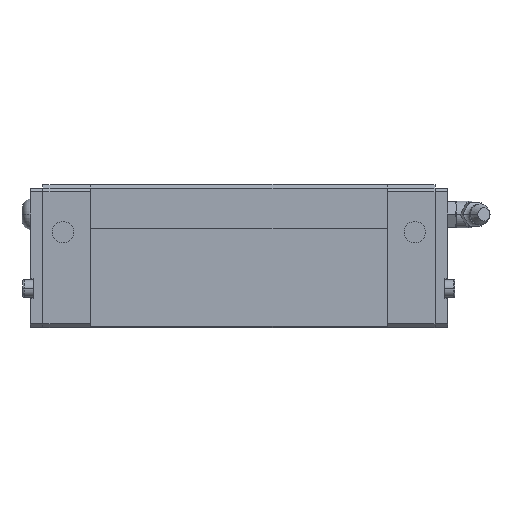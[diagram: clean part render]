
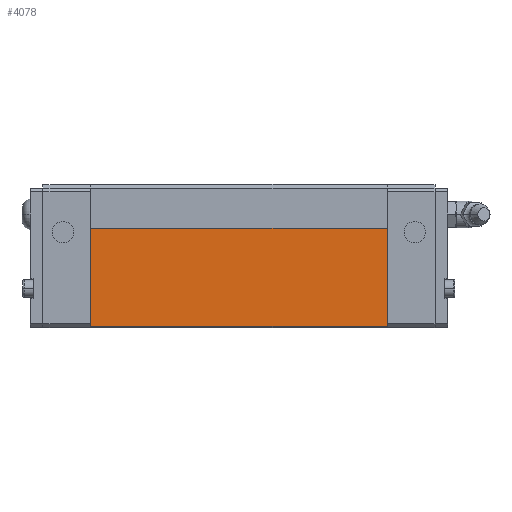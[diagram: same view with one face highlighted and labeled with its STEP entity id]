
A CAD part, left-side view. The second image highlights one B-rep face of the part: STEP entity #4078.
In plain terms, the highlighted planar face has unit normal (-1, 0, 0).
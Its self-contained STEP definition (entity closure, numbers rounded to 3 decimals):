
#1944=EDGE_CURVE('',#2548,#3790,#5049,.T.);
#2548=VERTEX_POINT('',#5710);
#2602=VERTEX_POINT('',#5772);
#2740=EDGE_CURVE('',#2548,#3180,#5918,.T.);
#3180=VERTEX_POINT('',#6394);
#3790=VERTEX_POINT('',#7075);
#3824=EDGE_CURVE('',#3790,#2602,#7110,.T.);
#4078=ADVANCED_FACE('',(#7392),#7393,.T.);
#4328=EDGE_CURVE('',#2602,#3180,#7671,.T.);
#5049=LINE('',#8663,#8664);
#5710=CARTESIAN_POINT('',(-49.125,24.05,52.5));
#5772=CARTESIAN_POINT('',(-49.125,141.75,13.625));
#5918=LINE('',#10013,#10014);
#6394=CARTESIAN_POINT('',(-49.125,141.75,52.5));
#7075=CARTESIAN_POINT('',(-49.125,24.05,13.625));
#7110=LINE('',#11859,#11860);
#7392=FACE_OUTER_BOUND('',#12240,.T.);
#7393=PLANE('',#12241);
#7671=LINE('',#12632,#12633);
#8663=CARTESIAN_POINT('',(-49.125,24.05,29.5));
#8664=VECTOR('',#13566,1.0);
#10013=CARTESIAN_POINT('',(-49.125,82.9,52.5));
#10014=VECTOR('',#14497,1.0);
#11859=CARTESIAN_POINT('',(-49.125,112.325,13.625));
#11860=VECTOR('',#15864,1.0);
#12240=EDGE_LOOP('',(#16152,#16153,#16154,#16155));
#12241=AXIS2_PLACEMENT_3D('',#16156,#16157,#16158);
#12632=CARTESIAN_POINT('',(-49.125,141.75,29.5));
#12633=VECTOR('',#16470,1.0);
#13566=DIRECTION('',(-0.0,-0.0,-1.0));
#14497=DIRECTION('',(0.0,1.0,0.0));
#15864=DIRECTION('',(0.0,1.0,-0.0));
#16152=ORIENTED_EDGE('',*,*,#4328,.F.);
#16153=ORIENTED_EDGE('',*,*,#3824,.F.);
#16154=ORIENTED_EDGE('',*,*,#1944,.F.);
#16155=ORIENTED_EDGE('',*,*,#2740,.T.);
#16156=CARTESIAN_POINT('',(-49.125,82.9,17.5));
#16157=DIRECTION('',(-1.0,0.0,0.0));
#16158=DIRECTION('',(0.0,0.0,1.0));
#16470=DIRECTION('',(0.0,0.0,1.0));
